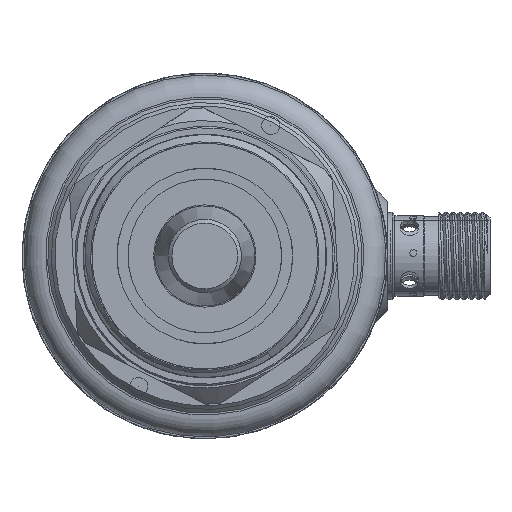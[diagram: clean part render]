
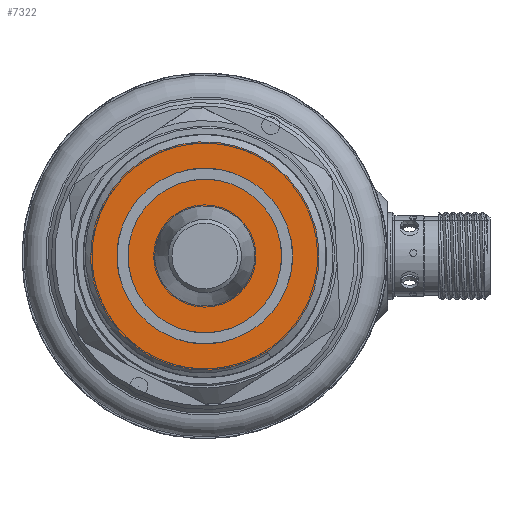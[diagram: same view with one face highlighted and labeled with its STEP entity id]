
A CAD part, front view. The second image highlights one B-rep face of the part: STEP entity #7322.
In plain terms, the highlighted planar face has unit normal (0, -1, 0) as drawn and (-1, 0, 0) by its records, which use the part's own axes.
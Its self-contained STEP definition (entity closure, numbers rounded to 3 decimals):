
#86 = CARTESIAN_POINT ( 'NONE',  ( 2.5, 0., -0.275 ) ) ;
#1374 = AXIS2_PLACEMENT_3D ( 'NONE', #2393, #11992, #5718 ) ;
#2393 = CARTESIAN_POINT ( 'NONE',  ( 2.5, 0., -0.275 ) ) ;
#4016 = ORIENTED_EDGE ( 'NONE', *, *, #13414, .T. ) ;
#4344 = EDGE_LOOP ( 'NONE', ( #4803 ) ) ;
#4803 = ORIENTED_EDGE ( 'NONE', *, *, #7158, .T. ) ;
#5459 = CIRCLE ( 'NONE', #12807, 6.85 ) ;
#5718 = DIRECTION ( 'NONE',  ( 0., 0., -1. ) ) ;
#5959 = CARTESIAN_POINT ( 'NONE',  ( 2.5, 0., -0.275 ) ) ;
#6774 = PLANE ( 'NONE',  #1374 ) ;
#6940 = CIRCLE ( 'NONE', #10279, 15.626 ) ;
#7158 = EDGE_CURVE ( 'NONE', #9389, #9389, #6940, .T. ) ;
#7322 = ADVANCED_FACE ( 'NONE', ( #13106, #7799 ), #6774, .F. ) ;
#7544 = DIRECTION ( 'NONE',  ( 0., 0., -1. ) ) ;
#7799 = FACE_BOUND ( 'NONE', #9813, .T. ) ;
#8873 = DIRECTION ( 'NONE',  ( 0., 0., -1. ) ) ;
#9373 = CARTESIAN_POINT ( 'NONE',  ( 2.5, 0., -7.125 ) ) ;
#9389 = VERTEX_POINT ( 'NONE', #11624 ) ;
#9813 = EDGE_LOOP ( 'NONE', ( #4016 ) ) ;
#10219 = VERTEX_POINT ( 'NONE', #9373 ) ;
#10279 = AXIS2_PLACEMENT_3D ( 'NONE', #86, #12992, #7544 ) ;
#11624 = CARTESIAN_POINT ( 'NONE',  ( 2.5, 0., -15.901 ) ) ;
#11992 = DIRECTION ( 'NONE',  ( 1., 0., 0. ) ) ;
#12807 = AXIS2_PLACEMENT_3D ( 'NONE', #5959, #13139, #8873 ) ;
#12992 = DIRECTION ( 'NONE',  ( -1., 0., 0. ) ) ;
#13106 = FACE_OUTER_BOUND ( 'NONE', #4344, .T. ) ;
#13139 = DIRECTION ( 'NONE',  ( 1., 0., 0. ) ) ;
#13414 = EDGE_CURVE ( 'NONE', #10219, #10219, #5459, .T. ) ;
